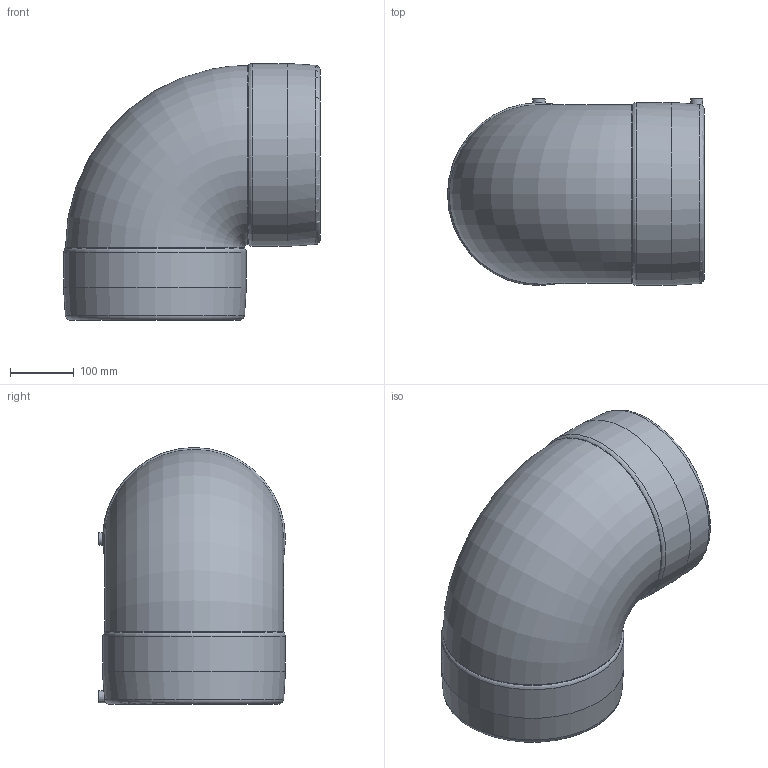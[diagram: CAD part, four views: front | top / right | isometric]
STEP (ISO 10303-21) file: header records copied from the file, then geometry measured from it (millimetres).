
FILE_DESCRIPTION(/* description */ ('Unknown'),/* implementation_level */ '2;1');
FILE_NAME(/* name */ 'GE9P225C',/* time_stamp */ '2021-04-23T12:11:14+02:00',/* author */ ('Unknown'),/* organization */ ('Unknown'),/* preprocessor_version */ 'ST-DEVELOPER v16.7',/* originating_system */ 'Solid Edge',/* authorisation */ 'Unknown');
FILE_SCHEMA (('AUTOMOTIVE_DESIGN {1 0 10303 214 3 1 1}'));
Length unit declared in the file: millimetre
Products named in the file (1): GE9P225C
Bounding box: 402 x 292.5 x 402 mm (x, y, z)
Volume: 11325406.3 mm3; surface area: 769782.1 mm2
Topology: 1 solids, 1 shells, 36 faces, 77 edges, 51 vertices
Faces by surface type: cylinder 14, plane 12, torus 6, cone 4
Full cylindrical faces by diameter (mm): 4 x2, 6 x2, 12 x2, 225 x2, 280 x2, 286 x2
Entity records: 928 total; most frequent: CARTESIAN_POINT 274, DIRECTION 136, ORIENTED_EDGE 86, AXIS2_PLACEMENT_3D 68, EDGE_LOOP 67, FACE_BOUND 67, EDGE_CURVE 43, VERTEX_POINT 38
